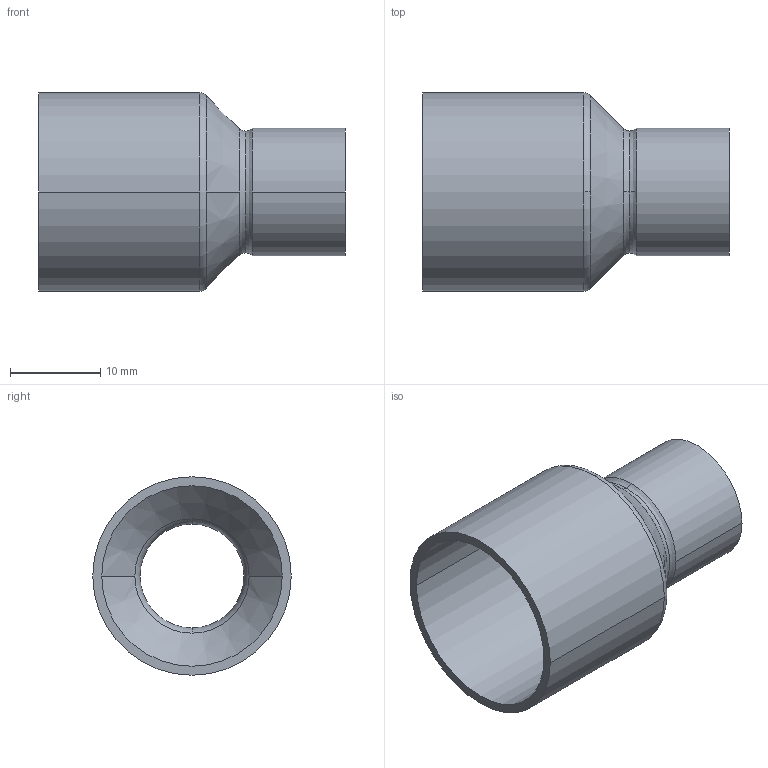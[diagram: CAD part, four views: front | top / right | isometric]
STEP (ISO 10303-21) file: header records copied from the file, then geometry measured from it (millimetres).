
FILE_DESCRIPTION((''),'2;1');
FILE_NAME('G:\Technics\CAD\Bauteile\Serie 15243\152432212.stp','2005-10-21T12:49:36',('boden'),(''),'Autodesk Inventor 8','Autodesk Inventor 8','');
FILE_SCHEMA(('AUTOMOTIVE_DESIGN { 1 0 10303 214 1 1 1 1 }'));
Length unit declared in the file: millimetre
Products named in the file (1): 152432212
Bounding box: 34 x 22 x 22 mm (x, y, z)
Volume: 1986.3 mm3; surface area: 4080 mm2
Topology: 1 solids, 1 shells, 24 faces, 60 edges, 38 vertices
Faces by surface type: cylinder 8, torus 6, bspline 4, cone 4, plane 2
Entity records: 931 total; most frequent: CARTESIAN_POINT 299, DIRECTION 150, ORIENTED_EDGE 120, AXIS2_PLACEMENT_3D 69, EDGE_CURVE 60, CIRCLE 48, VERTEX_POINT 38, EDGE_LOOP 26
